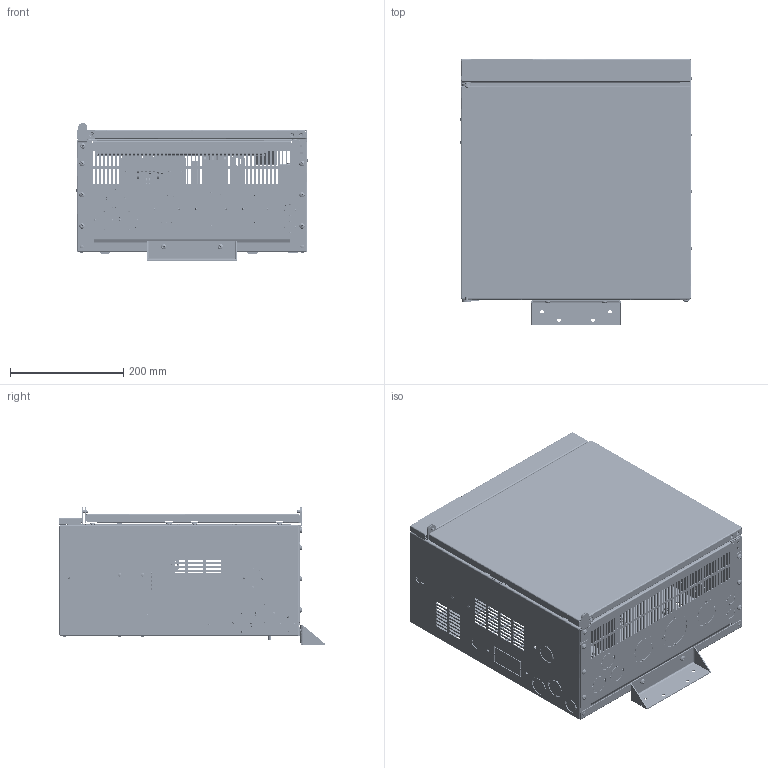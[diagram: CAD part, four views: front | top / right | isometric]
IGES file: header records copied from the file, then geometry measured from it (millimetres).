
Start section: SolidWorks IGES file using analytic representation for surfaces
Global section: file name: C:\Users\SESA125144\Desktop\Mini_PDP_100-1290-01-01.IGS; native system: SolidWorks 2017; preprocessor: SolidWorks 2017; author: SESA125144; date: 180409.133914; units: millimetre
Bounding box: 408.33 x 469.91 x 243.4 mm (x, y, z)
Surface area: 2518797 mm2 (no closed solid volume)
Topology: 0 solids, 0 shells, 9256 faces, 95875 edges, 95707 vertices
Faces by surface type: bspline 6026, revolution 3230
